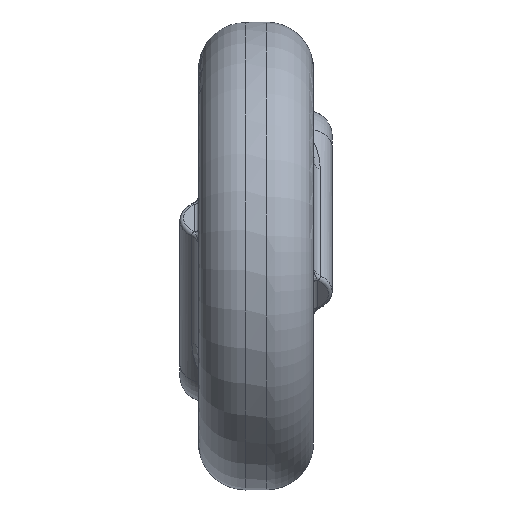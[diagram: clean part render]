
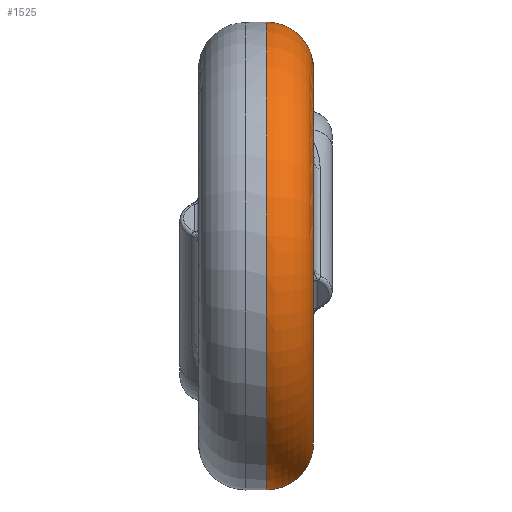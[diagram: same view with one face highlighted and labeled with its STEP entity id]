
A CAD part, left-side view. The second image highlights one B-rep face of the part: STEP entity #1525.
In plain terms, the highlighted toroidal (fillet/blend) face has major radius 9.95 mm and minor radius 2.5 mm.
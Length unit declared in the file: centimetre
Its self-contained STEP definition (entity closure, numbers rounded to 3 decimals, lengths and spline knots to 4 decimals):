
#506=CARTESIAN_POINT('',(0.8561,-0.081,0.5071));
#507=VERTEX_POINT('',#506);
#514=CARTESIAN_POINT('',(0.9881,-0.081,0.117));
#515=VERTEX_POINT('',#514);
#516=CARTESIAN_POINT('',(0.0,-0.081,0.0));
#517=DIRECTION('',(0.0,1.0,0.0));
#518=DIRECTION('',(-1.0,0.0,0.0));
#519=AXIS2_PLACEMENT_3D('',#516,#517,#518);
#520=CIRCLE('',#519,0.995);
#521=EDGE_CURVE('',#515,#507,#520,.T.);
#1145=CARTESIAN_POINT('',(0.9769,0.0236,0.6941));
#1146=VERTEX_POINT('',#1145);
#1154=CARTESIAN_POINT('',(0.9769,0.0236,0.6941));
#1155=CARTESIAN_POINT('',(0.9663,0.0043,0.6853));
#1156=CARTESIAN_POINT('',(0.9466,-0.0296,0.6565));
#1157=CARTESIAN_POINT('',(0.9117,-0.0693,0.5879));
#1158=CARTESIAN_POINT('',(0.8797,-0.081,0.5347));
#1159=CARTESIAN_POINT('',(0.8561,-0.081,0.5071));
#1160=B_SPLINE_CURVE_WITH_KNOTS('',3,(#1154,#1155,#1156,#1157,#1158,#1159),.UNSPECIFIED.,.F.,.U.,(4,1,1,4),(-0.3291,-0.2351,-0.1411,0.),.UNSPECIFIED.);
#1161=EDGE_CURVE('',#1146,#507,#1160,.T.);
#1209=CARTESIAN_POINT('',(1.0875,0.169,0.6061));
#1210=VERTEX_POINT('',#1209);
#1218=CARTESIAN_POINT('',(1.0875,0.169,0.6061));
#1219=CARTESIAN_POINT('',(1.0652,0.1568,0.6461));
#1220=CARTESIAN_POINT('',(1.0255,0.111,0.7051));
#1221=CARTESIAN_POINT('',(0.9899,0.0472,0.7049));
#1222=CARTESIAN_POINT('',(0.9769,0.0236,0.6941));
#1223=B_SPLINE_CURVE_WITH_KNOTS('',3,(#1218,#1219,#1220,#1221,#1222),.UNSPECIFIED.,.F.,.U.,(4,1,4),(-0.2696,-0.1155,0.),.UNSPECIFIED.);
#1224=EDGE_CURVE('',#1210,#1146,#1223,.T.);
#1311=CARTESIAN_POINT('',(1.148,0.169,0.4818));
#1312=VERTEX_POINT('',#1311);
#1394=CARTESIAN_POINT('',(0.9881,-0.081,0.117));
#1395=CARTESIAN_POINT('',(1.0197,-0.081,0.159));
#1396=CARTESIAN_POINT('',(1.075,-0.0675,0.2093));
#1397=CARTESIAN_POINT('',(1.1552,-0.0031,0.2705));
#1398=CARTESIAN_POINT('',(1.1973,0.0935,0.3394));
#1399=CARTESIAN_POINT('',(1.1693,0.1553,0.4311));
#1400=CARTESIAN_POINT('',(1.148,0.169,0.4818));
#1401=B_SPLINE_CURVE_WITH_KNOTS('',3,(#1394,#1395,#1396,#1397,#1398,#1399,#1400),.UNSPECIFIED.,.F.,.U.,(4,1,1,1,4),(-1.3941,-1.2102,-1.1182,-0.9343,-0.7503),.UNSPECIFIED.);
#1402=EDGE_CURVE('',#515,#1312,#1401,.T.);
#1507=CARTESIAN_POINT('',(0.0,0.169,0.0));
#1508=DIRECTION('',(0.0,-1.0,0.0));
#1509=DIRECTION('',(-1.0,0.0,0.0));
#1510=AXIS2_PLACEMENT_3D('',#1507,#1508,#1509);
#1511=TOROIDAL_SURFACE('',#1510,0.995,0.25);
#1512=ORIENTED_EDGE('',*,*,#1402,.F.);
#1513=ORIENTED_EDGE('',*,*,#521,.T.);
#1514=ORIENTED_EDGE('',*,*,#1161,.F.);
#1515=ORIENTED_EDGE('',*,*,#1224,.F.);
#1516=CARTESIAN_POINT('',(0.0,0.169,0.0));
#1517=DIRECTION('',(0.0,-1.0,0.0));
#1518=DIRECTION('',(-1.0,0.0,0.0));
#1519=AXIS2_PLACEMENT_3D('',#1516,#1517,#1518);
#1520=CIRCLE('',#1519,1.245);
#1521=EDGE_CURVE('',#1210,#1312,#1520,.T.);
#1522=ORIENTED_EDGE('',*,*,#1521,.T.);
#1523=EDGE_LOOP('',(#1512,#1513,#1514,#1515,#1522));
#1524=FACE_OUTER_BOUND('',#1523,.T.);
#1525=ADVANCED_FACE('',(#1524),#1511,.T.);
